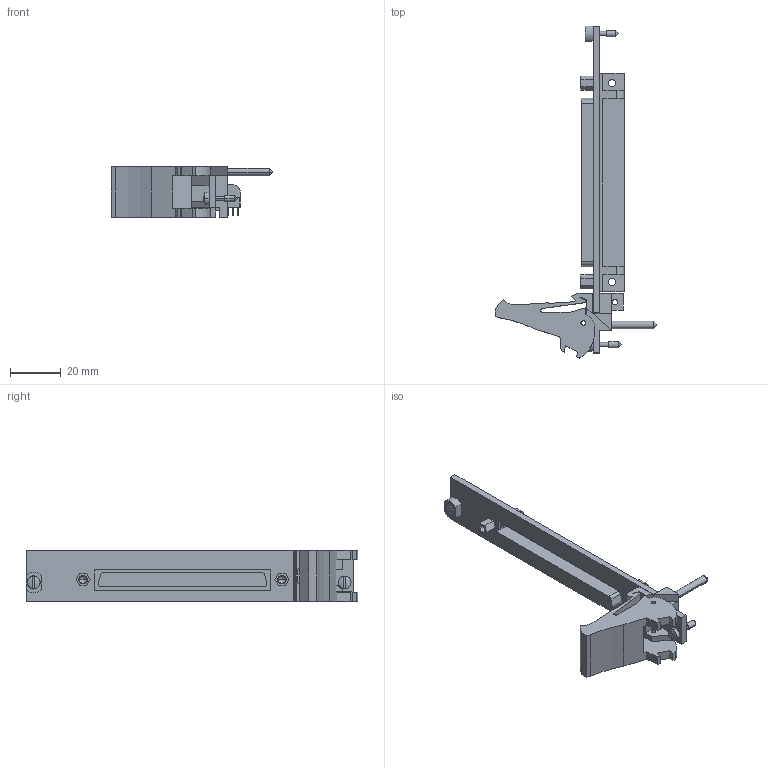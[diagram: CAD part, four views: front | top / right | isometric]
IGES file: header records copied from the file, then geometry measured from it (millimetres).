
Start section:  PTC IGES file: cu_pxi-mod-100pos-scsi.igs
Global section: file name: cu_pxi-mod-100pos-scsi.igs; native system: Pro/ENGINEER by Parametric Technology Corporation; preprocessor: 2006300; author: chrisj; organization: Unknown; date: 20071010.135114; units: inch
Bounding box: 63.53 x 130.62 x 20.02 mm (x, y, z)
Surface area: 15237.9 mm2 (no closed solid volume)
Topology: 0 solids, 0 shells, 274 faces, 1464 edges, 1458 vertices
Faces by surface type: bspline 173, revolution 101
